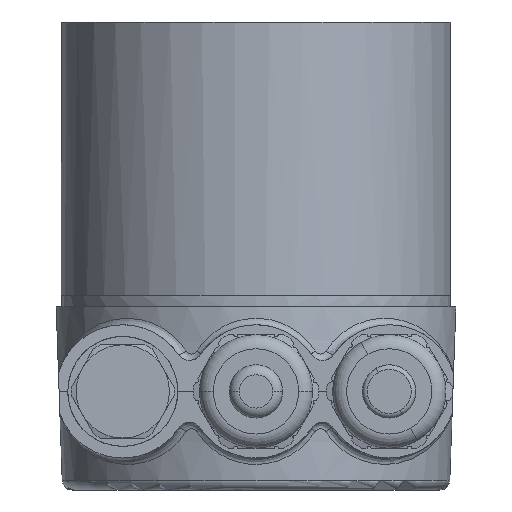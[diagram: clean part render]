
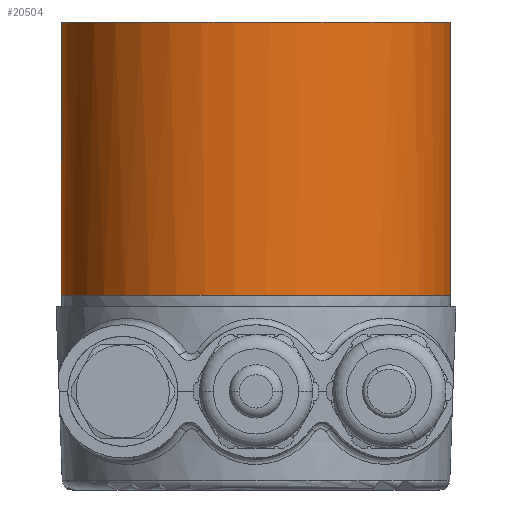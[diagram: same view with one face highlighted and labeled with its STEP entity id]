
A CAD part, front view. The second image highlights one B-rep face of the part: STEP entity #20504.
In plain terms, the highlighted cylindrical face has radius 29.3 mm (diameter 58.6 mm), a partial arc.
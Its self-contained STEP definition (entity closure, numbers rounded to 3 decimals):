
#807 = DIRECTION ( 'NONE',  ( 0., 0., 1. ) ) ;
#3025 = CIRCLE ( 'NONE', #21660, 29.3 ) ;
#4846 = CARTESIAN_POINT ( 'NONE',  ( 29.134, -3.115, 70.25 ) ) ;
#7036 = DIRECTION ( 'NONE',  ( 1., 0., 0. ) ) ;
#10576 = CARTESIAN_POINT ( 'NONE',  ( 29.134, -3.115, 29.25 ) ) ;
#13240 = EDGE_CURVE ( 'NONE', #13387, #37831, #39795, .T. ) ;
#13387 = VERTEX_POINT ( 'NONE', #4846 ) ;
#15291 = CARTESIAN_POINT ( 'NONE',  ( -29.134, 3.115, 29.25 ) ) ;
#16157 = CYLINDRICAL_SURFACE ( 'NONE', #40361, 29.3 ) ;
#16922 = VERTEX_POINT ( 'NONE', #15291 ) ;
#20341 = DIRECTION ( 'NONE',  ( 0., 0., -1. ) ) ;
#20504 = ADVANCED_FACE ( 'NONE', ( #48108 ), #16157, .T. ) ;
#20618 = ORIENTED_EDGE ( 'NONE', *, *, #24887, .T. ) ;
#21660 = AXIS2_PLACEMENT_3D ( 'NONE', #54871, #80546, #72743 ) ;
#21892 = AXIS2_PLACEMENT_3D ( 'NONE', #63966, #807, #7036 ) ;
#24887 = EDGE_CURVE ( 'NONE', #40999, #16922, #37552, .T. ) ;
#28993 = ORIENTED_EDGE ( 'NONE', *, *, #13240, .F. ) ;
#30255 = CARTESIAN_POINT ( 'NONE',  ( 0., 0., 59.25 ) ) ;
#33789 = EDGE_LOOP ( 'NONE', ( #69993, #20618, #58072, #28993 ) ) ;
#37552 = LINE ( 'NONE', #43378, #77408 ) ;
#37831 = VERTEX_POINT ( 'NONE', #10576 ) ;
#39795 = LINE ( 'NONE', #70963, #78274 ) ;
#40361 = AXIS2_PLACEMENT_3D ( 'NONE', #30255, #41436, #49345 ) ;
#40999 = VERTEX_POINT ( 'NONE', #78865 ) ;
#41436 = DIRECTION ( 'NONE',  ( 0., 0., -1. ) ) ;
#43047 = CIRCLE ( 'NONE', #21892, 29.3 ) ;
#43378 = CARTESIAN_POINT ( 'NONE',  ( -29.134, 3.115, 59.25 ) ) ;
#48108 = FACE_OUTER_BOUND ( 'NONE', #33789, .T. ) ;
#49345 = DIRECTION ( 'NONE',  ( 0.994, -0.106, 0. ) ) ;
#50467 = DIRECTION ( 'NONE',  ( 0., 0., -1. ) ) ;
#54871 = CARTESIAN_POINT ( 'NONE',  ( 0., 0., 70.25 ) ) ;
#58072 = ORIENTED_EDGE ( 'NONE', *, *, #64143, .T. ) ;
#63966 = CARTESIAN_POINT ( 'NONE',  ( 0., 0., 29.25 ) ) ;
#64143 = EDGE_CURVE ( 'NONE', #16922, #37831, #43047, .T. ) ;
#69993 = ORIENTED_EDGE ( 'NONE', *, *, #81900, .F. ) ;
#70963 = CARTESIAN_POINT ( 'NONE',  ( 29.134, -3.115, 59.25 ) ) ;
#72743 = DIRECTION ( 'NONE',  ( -0.994, 0.106, 0. ) ) ;
#77408 = VECTOR ( 'NONE', #50467, 1000. ) ;
#78274 = VECTOR ( 'NONE', #20341, 1000. ) ;
#78865 = CARTESIAN_POINT ( 'NONE',  ( -29.134, 3.115, 70.25 ) ) ;
#80546 = DIRECTION ( 'NONE',  ( 0., 0., 1. ) ) ;
#81900 = EDGE_CURVE ( 'NONE', #40999, #13387, #3025, .T. ) ;
